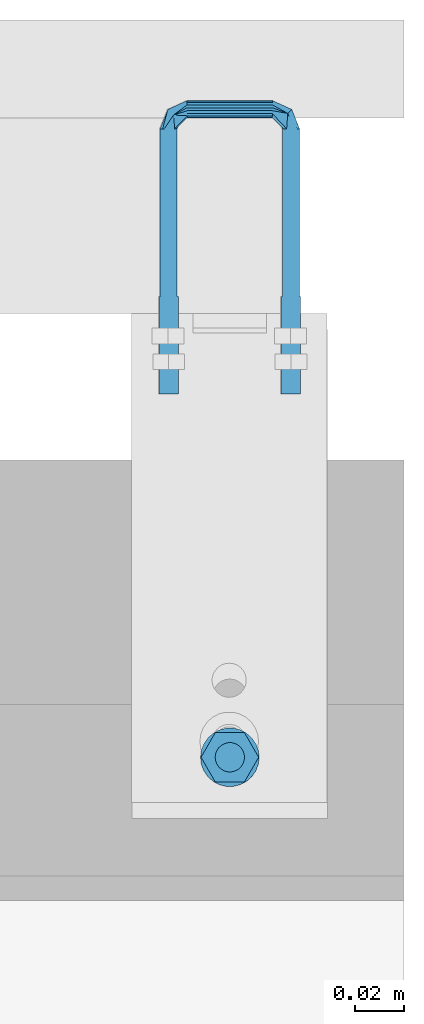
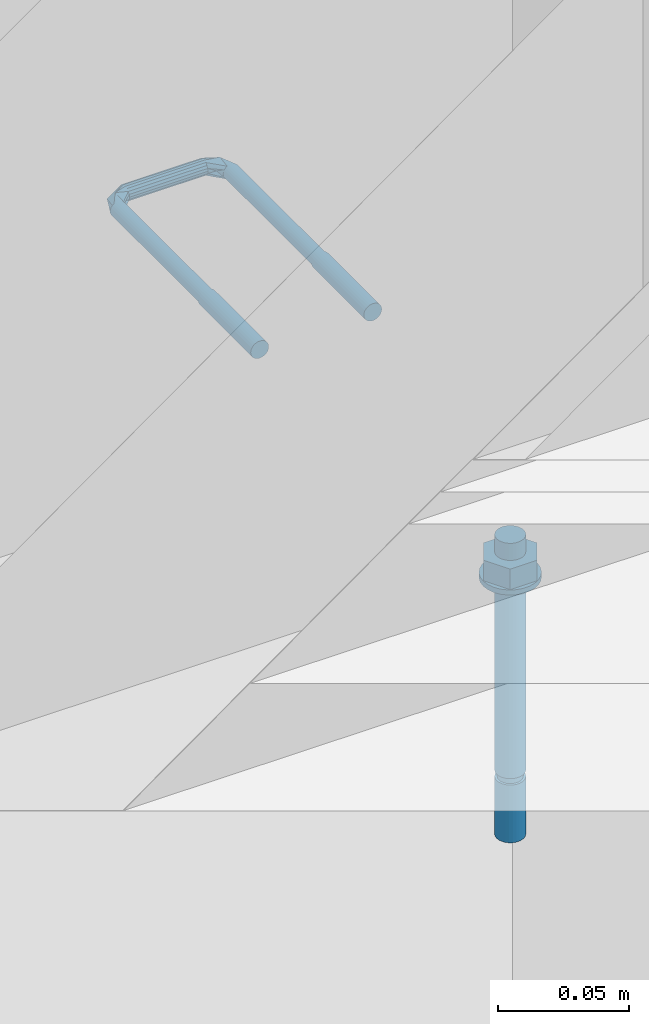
# One storey, part 7 of 13: 2 assemblies.
"""IFC2X3 building model written with IfcOpenShell, lengths in metres."""

from ifc_helpers import new_model, entity, si_unit, converted_unit, derived_unit, direction, frame, frame_2d, origin, place, context, subcontext, project, spatial, polyline, circle_curve, parameter, trimmed, segment, composite_curve, circle, hollow_circle, outline, extrude, faceted_brep, source, transform, mapped, material, type_object, type_shapes, element, save


model = new_model("IFC2X3")

# Units and contexts
model_context = context("Model", 3, precision=1e-05, world=origin(), true_north=direction((6.123031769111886e-17, 1.0)))
body_context = subcontext(model_context, "Body", "Model", "MODEL_VIEW")
ifc_project = project(units=[si_unit("LENGTHUNIT", "METRE"), si_unit("AREAUNIT", "SQUARE_METRE"), converted_unit("PLANEANGLEUNIT", "DEGREE", entity("IfcPlaneAngleMeasure", 0.017453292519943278), si_unit("PLANEANGLEUNIT", "RADIAN"), dimensions=[0, 0, 0, 0, 0, 0, 0]), si_unit("VOLUMEUNIT", "CUBIC_METRE"), derived_unit("THERMALTRANSMITTANCEUNIT", [(si_unit("MASSUNIT", "GRAM", prefix="KILO"), 1), (si_unit("THERMODYNAMICTEMPERATUREUNIT", "KELVIN"), -1), (si_unit("TIMEUNIT", "SECOND"), -3)]), derived_unit("USERDEFINED", [(si_unit("MASSUNIT", "GRAM", prefix="KILO"), 1), (si_unit("THERMODYNAMICTEMPERATUREUNIT", "KELVIN"), -1), (si_unit("TIMEUNIT", "SECOND"), -2)]), derived_unit("THERMALRESISTANCEUNIT", [(si_unit("MASSUNIT", "GRAM", prefix="KILO"), -1), (si_unit("TIMEUNIT", "SECOND"), 3), (si_unit("THERMODYNAMICTEMPERATUREUNIT", "KELVIN"), 1)]), derived_unit("MASSDENSITYUNIT", [(si_unit("MASSUNIT", "GRAM", prefix="KILO"), 1), (si_unit("LENGTHUNIT", "METRE"), -3)]), derived_unit("VAPORPERMEABILITYUNIT", [(si_unit("LENGTHUNIT", "METRE"), -1), (si_unit("TIMEUNIT", "SECOND"), 1)]), derived_unit("USERDEFINED", [(si_unit("MASSUNIT", "GRAM", prefix="KILO"), 1), (si_unit("TIMEUNIT", "SECOND"), -3), (si_unit("LENGTHUNIT", "METRE"), 3), (si_unit("ELECTRICCURRENTUNIT", "AMPERE"), -2)]), si_unit("PRESSUREUNIT", "PASCAL")], contexts=[model_context])

# Site, building, storey
site_placement = place(None, origin())
site = spatial("IfcSite", under=ifc_project, at=site_placement, Name="Default", CompositionType="ELEMENT")
building_placement = place(site_placement, origin())
building = spatial("IfcBuilding", under=site, at=building_placement, CompositionType="ELEMENT")
storey_placement = place(building_placement, origin())
storey = spatial("IfcBuildingStorey", under=building, at=storey_placement, Name="L0", CompositionType="ELEMENT", Elevation=0.0)

# Assemblies
ifc_material = material(Name="REC_Acero, S 275JR (Zincado)")
type_product_1 = type_object("IfcTypeProduct", Name="REC-AU12050M8EQ:AU12050M8EQ", material=ifc_material)
shared_shape_1 = source(origin(), body_context, "Body", "Brep", [
    faceted_brep([(0.023250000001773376, 0.0030310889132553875, 0.023500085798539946), (0.022999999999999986, 0.0034641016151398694, 0.023500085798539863), (0.022525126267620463, 0.0024748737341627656, 0.023500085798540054), (0.02396472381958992, 0.0038637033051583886, 0.023500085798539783), (0.02409413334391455, 0.0033807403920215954, 0.02350008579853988), (0.02500000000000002, 0.004000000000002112, 0.023500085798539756), (0.02500000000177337, 0.003500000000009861, 0.023500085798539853), (0.026035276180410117, 0.003863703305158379, 0.023500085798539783), (0.025905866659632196, 0.0033807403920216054, 0.02350008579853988), (0.027000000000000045, 0.0034641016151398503, 0.023500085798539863), (0.026750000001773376, 0.003031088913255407, 0.023500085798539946), (0.027474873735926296, 0.0024748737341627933, 0.023500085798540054), (0.027828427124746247, 0.0028284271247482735, 0.023500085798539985), (0.028031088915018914, 0.0017500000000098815, 0.023500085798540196), (0.02846410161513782, 0.0020000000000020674, 0.023500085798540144), (0.028380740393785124, 0.0009058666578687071, 0.023500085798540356), (0.02886370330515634, 0.0010352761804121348, 0.02350008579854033), (0.02850000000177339, 0.0, 0.023500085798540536), (0.029000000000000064, 0.0, 0.023500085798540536), (0.028380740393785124, -0.0009058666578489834, 0.023500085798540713), (0.028863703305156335, -0.0010352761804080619, 0.023500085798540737), (0.028031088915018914, -0.0017499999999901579, 0.023500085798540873), (0.028464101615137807, -0.001999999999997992, 0.023500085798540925), (0.027474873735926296, -0.00247487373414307, 0.02350008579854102), (0.027828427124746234, -0.0028284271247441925, 0.023500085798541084), (0.026750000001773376, -0.0030310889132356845, 0.023500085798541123), (0.027000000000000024, -0.003464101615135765, 0.02350008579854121), (0.025905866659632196, -0.0033807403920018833, 0.023500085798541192), (0.026035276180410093, -0.0038637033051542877, 0.02350008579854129), (0.025000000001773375, -0.00349999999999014, 0.023500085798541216), (0.024999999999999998, -0.003999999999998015, 0.023500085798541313), (0.024094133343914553, -0.0033807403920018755, 0.023500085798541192), (0.0239647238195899, -0.0038637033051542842, 0.02350008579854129), (0.02325000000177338, -0.003031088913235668, 0.023500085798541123), (0.022999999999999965, -0.0034641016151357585, 0.02350008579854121), (0.022171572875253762, -0.0028284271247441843, 0.023500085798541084), (0.022525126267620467, -0.0024748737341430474, 0.02350008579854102), (0.021535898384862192, -0.0019999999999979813, 0.023500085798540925), (0.021968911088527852, -0.0017499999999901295, 0.023500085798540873), (0.021136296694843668, -0.0010352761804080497, 0.023500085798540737), (0.02161925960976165, -0.000905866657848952, 0.023500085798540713), (0.02099999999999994, 0.0, 0.023500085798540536), (0.021500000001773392, 0.0, 0.023500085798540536), (0.02113629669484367, 0.0010352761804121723, 0.02350008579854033), (0.02161925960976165, 0.0009058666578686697, 0.023500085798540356), (0.021535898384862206, 0.0020000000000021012, 0.023500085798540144), (0.021968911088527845, 0.0017500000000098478, 0.023500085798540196), (0.022171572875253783, 0.0028284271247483, 0.023500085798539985), (-0.023000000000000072, -0.0034641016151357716, 0.023500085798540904), (-0.02217157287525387, -0.002828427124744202, 0.02350008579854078), (-0.02153589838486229, -0.0019999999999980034, 0.02350008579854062), (-0.021136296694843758, -0.0010352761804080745, 0.023500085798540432), (-0.021619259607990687, -0.000905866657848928, 0.023500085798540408), (-0.02196891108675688, -0.0017499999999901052, 0.023500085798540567), (-0.022525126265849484, -0.002474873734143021, 0.023500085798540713), (-0.023250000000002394, -0.0030310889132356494, 0.023500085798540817), (-0.024094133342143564, -0.0033807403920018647, 0.023500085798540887), (-0.025000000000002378, -0.00349999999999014, 0.02350008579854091), (-0.0259058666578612, -0.0033807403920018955, 0.023500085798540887), (-0.02675000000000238, -0.003031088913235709, 0.023500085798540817), (-0.027474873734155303, -0.0024748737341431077, 0.023500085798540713), (-0.02803108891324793, -0.0017499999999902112, 0.023500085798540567), (-0.02838074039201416, -0.0009058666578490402, 0.023500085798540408), (-0.028500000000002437, 0.0, 0.02350008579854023), (-0.028380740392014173, 0.0009058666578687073, 0.023500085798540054), (-0.028031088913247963, 0.0017500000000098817, 0.02350008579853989), (-0.02747487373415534, 0.002474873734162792, 0.02350008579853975), (-0.02675000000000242, 0.0030310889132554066, 0.02350008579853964), (-0.025905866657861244, 0.0033807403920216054, 0.023500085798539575), (-0.025000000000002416, 0.003500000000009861, 0.02350008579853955), (-0.024094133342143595, 0.003380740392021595, 0.023500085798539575), (-0.02325000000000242, 0.0030310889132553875, 0.02350008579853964), (-0.02252512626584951, 0.0024748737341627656, 0.02350008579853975), (-0.021968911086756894, 0.0017500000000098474, 0.02350008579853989), (-0.021619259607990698, 0.0009058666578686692, 0.023500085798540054), (-0.021000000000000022, 0.0, 0.02350008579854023), (-0.021136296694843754, 0.0010352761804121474, 0.023500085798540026), (-0.02153589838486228, 0.0020000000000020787, 0.023500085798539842), (-0.02217157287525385, 0.002828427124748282, 0.02350008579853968), (-0.02300000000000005, 0.0034641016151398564, 0.023500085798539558), (-0.023964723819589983, 0.003863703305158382, 0.023500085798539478), (-0.02500000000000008, 0.004000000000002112, 0.023500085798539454), (-0.02603527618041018, 0.003863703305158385, 0.023500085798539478), (-0.02700000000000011, 0.003464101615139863, 0.023500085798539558), (-0.027828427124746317, 0.0028284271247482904, 0.02350008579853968), (-0.02846410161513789, 0.0020000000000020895, 0.023500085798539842), (-0.028863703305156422, 0.0010352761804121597, 0.023500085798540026), (-0.02900000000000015, 0.0, 0.02350008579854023), (-0.028863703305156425, -0.001035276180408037, 0.023500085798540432), (-0.028464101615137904, -0.0019999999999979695, 0.02350008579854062), (-0.027828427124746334, -0.0028284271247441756, 0.02350008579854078), (-0.02700000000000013, -0.0034641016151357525, 0.023500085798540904), (-0.026035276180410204, -0.003863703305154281, 0.023500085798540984), (-0.025000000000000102, -0.003999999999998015, 0.023500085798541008), (-0.023964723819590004, -0.0038637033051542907, 0.023500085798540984), (0.0239647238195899, -0.003863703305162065, -0.016499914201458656), (0.022999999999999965, -0.0034641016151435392, -0.016499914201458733), (0.022171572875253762, -0.0028284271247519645, -0.016499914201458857), (0.021535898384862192, -0.0020000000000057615, -0.016499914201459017), (0.021136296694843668, -0.0010352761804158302, -0.016499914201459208), (0.02099999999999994, 0.0, -0.016499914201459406), (0.02113629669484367, 0.0010352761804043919, -0.016499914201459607), (0.021535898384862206, 0.0019999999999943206, -0.016499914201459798), (0.022171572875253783, 0.0028284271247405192, -0.016499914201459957), (0.022999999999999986, 0.0034641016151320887, -0.016499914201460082), (0.02396472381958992, 0.003863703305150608, -0.01649991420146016), (0.02500000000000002, 0.003999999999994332, -0.016499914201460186), (0.026035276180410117, 0.0038637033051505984, -0.01649991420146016), (0.027000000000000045, 0.0034641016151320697, -0.016499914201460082), (0.027828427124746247, 0.0028284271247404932, -0.016499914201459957), (0.02846410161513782, 0.001999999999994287, -0.016499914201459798), (0.02886370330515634, 0.0010352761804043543, -0.016499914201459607), (0.029000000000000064, 0.0, -0.016499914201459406), (0.028863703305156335, -0.0010352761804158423, -0.016499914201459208), (0.028464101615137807, -0.0020000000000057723, -0.016499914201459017), (0.027828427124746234, -0.002828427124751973, -0.016499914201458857), (0.027000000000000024, -0.0034641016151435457, -0.016499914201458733), (0.026035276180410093, -0.003863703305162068, -0.016499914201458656), (0.024999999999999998, -0.004000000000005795, -0.01649991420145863), (-0.023964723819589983, 0.003863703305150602, -0.016499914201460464), (-0.02300000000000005, 0.003464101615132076, -0.016499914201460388), (-0.02217157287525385, 0.0028284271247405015, -0.016499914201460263), (-0.02153589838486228, 0.0019999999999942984, -0.0164999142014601), (-0.021136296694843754, 0.001035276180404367, -0.016499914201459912), (-0.021000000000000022, 0.0, -0.01649991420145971), (-0.021136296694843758, -0.0010352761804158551, -0.01649991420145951), (-0.02153589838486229, -0.0020000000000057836, -0.016499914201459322), (-0.02217157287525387, -0.0028284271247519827, -0.016499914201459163), (-0.023000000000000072, -0.003464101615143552, -0.016499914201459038), (-0.023964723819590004, -0.003863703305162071, -0.01649991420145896), (-0.025000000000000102, -0.004000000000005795, -0.016499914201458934), (-0.026035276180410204, -0.0038637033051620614, -0.01649991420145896), (-0.02700000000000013, -0.0034641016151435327, -0.016499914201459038), (-0.027828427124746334, -0.0028284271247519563, -0.016499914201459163), (-0.028464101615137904, -0.00200000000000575, -0.016499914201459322), (-0.028863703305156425, -0.0010352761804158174, -0.01649991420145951), (-0.02900000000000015, 0.0, -0.01649991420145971), (-0.028863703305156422, 0.001035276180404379, -0.016499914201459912), (-0.02846410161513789, 0.0019999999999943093, -0.0164999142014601), (-0.027828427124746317, 0.00282842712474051, -0.016499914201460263), (-0.02700000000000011, 0.0034641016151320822, -0.016499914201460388), (-0.02603527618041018, 0.003863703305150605, -0.016499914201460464), (-0.02500000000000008, 0.003999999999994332, -0.01649991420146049), (-0.021500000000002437, 0.0, 0.0235000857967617), (-0.021500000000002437, 0.0, 0.09201281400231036), (-0.021619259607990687, -0.000905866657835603, 0.09201281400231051), (-0.021968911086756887, -0.0017499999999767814, 0.0920128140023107), (-0.022525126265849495, -0.0024748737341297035, 0.09201281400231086), (-0.023250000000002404, -0.003031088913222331, 0.09201281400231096), (-0.024094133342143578, -0.0033807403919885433, 0.09201281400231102), (-0.0250000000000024, -0.0034999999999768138, 0.09201281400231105), (-0.0267500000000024, -0.00303108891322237, 0.09201281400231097), (-0.027474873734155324, -0.002474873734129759, 0.09201281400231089), (-0.02590586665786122, -0.0033807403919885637, 0.09201281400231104), (-0.028380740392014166, -0.0009058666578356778, 0.09201281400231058), (-0.028500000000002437, 0.0, 0.09201281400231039), (-0.028031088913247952, -0.0017499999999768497, 0.09201281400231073), (-0.02838074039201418, 0.0009058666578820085, 0.0920128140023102), (-0.028031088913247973, 0.0017500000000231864, 0.09201281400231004), (-0.026750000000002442, 0.003031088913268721, 0.09201281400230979), (-0.02590586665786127, 0.0033807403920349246, 0.09201281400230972), (-0.02747487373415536, 0.0024748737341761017, 0.09201281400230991), (-0.025000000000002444, 0.0035000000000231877, 0.0920128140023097), (-0.023250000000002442, 0.0030310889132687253, 0.09201281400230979), (-0.022525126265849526, 0.0024748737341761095, 0.09201281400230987), (-0.024094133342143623, 0.003380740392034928, 0.09201281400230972), (-0.0216192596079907, 0.0009058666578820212, 0.09201281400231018), (-0.021968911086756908, 0.001750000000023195, 0.09201281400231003), (-0.023021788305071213, -0.0034912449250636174, 0.09764821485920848), (-0.017367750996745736, -0.002249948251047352, 0.09731909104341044), (-0.027229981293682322, 0.0, 0.0951839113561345), (-0.025320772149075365, 0.0, 0.09995099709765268), (-0.020299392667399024, 0.0, 0.09507288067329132), (-0.01734606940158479, -0.0011969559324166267, 0.09671111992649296), (-0.017338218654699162, 0.0, 0.09650008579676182), (-0.017433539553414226, -0.00344640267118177, 0.09938991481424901), (-0.017467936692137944, -0.0034468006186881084, 0.10060800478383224), (-0.017398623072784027, -0.0030301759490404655, 0.09824850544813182), (-0.01749800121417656, -0.003031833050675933, 0.10174879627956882), (-0.01753592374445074, -0.0011969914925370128, 0.10328903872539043), (-0.01752129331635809, -0.0022495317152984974, 0.10268143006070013), (-0.017540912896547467, 0.0, 0.10350008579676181), (-0.02302182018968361, 0.0034912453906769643, 0.09764817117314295), (-0.017467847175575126, 0.003447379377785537, 0.10060471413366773), (-0.017433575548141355, 0.003446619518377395, 0.09939114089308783), (-0.017367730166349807, 0.002249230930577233, 0.0973184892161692), (-0.017497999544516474, 0.0030318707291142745, 0.10174873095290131), (-0.01752126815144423, 0.002250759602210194, 0.1026803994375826), (-0.01739859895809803, 0.00302973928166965, 0.09824775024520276), (-0.0175359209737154, 0.0011973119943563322, 0.1032889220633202), (-0.01734606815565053, 0.0011968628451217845, 0.0967110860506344), (0.017338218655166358, 0.0, 0.09650008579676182), (0.01734606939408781, -0.0011969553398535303, 0.09671111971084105), (0.017398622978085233, -0.0030301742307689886, 0.09824850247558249), (0.01743353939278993, -0.0034464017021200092, 0.09938990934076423), (0.017367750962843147, -0.0022499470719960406, 0.09731909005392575), (0.017467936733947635, -0.0034468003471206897, 0.10060800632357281), (0.017498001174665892, -0.003031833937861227, 0.10174879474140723), (0.017521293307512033, -0.002249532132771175, 0.10268142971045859), (0.017535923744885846, -0.001196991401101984, 0.10328903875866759), (0.017540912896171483, 0.0, 0.10350008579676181), (0.017535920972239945, 0.0011973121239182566, 0.10328892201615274), (0.01752126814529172, 0.0022507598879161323, 0.10268039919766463), (0.017497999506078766, 0.0030318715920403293, 0.10174872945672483), (0.017467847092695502, 0.0034473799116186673, 0.10060471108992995), (0.017433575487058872, 0.0034466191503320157, 0.09939113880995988), (0.017398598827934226, 0.003029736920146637, 0.09824774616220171), (0.01734606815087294, 0.0011968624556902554, 0.09671108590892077), (0.01736773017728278, 0.0022492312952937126, 0.09731848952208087), (0.022525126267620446, -0.002474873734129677, 0.0920128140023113), (0.02369781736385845, -0.0032894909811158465, 0.09831334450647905), (0.02029939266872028, 0.0, 0.09507288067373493), (0.021968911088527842, -0.001749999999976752, 0.09201281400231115), (0.023250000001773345, -0.003031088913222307, 0.0920128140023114), (0.025320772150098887, 0.0, 0.09995099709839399), (0.02838074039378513, -0.0009058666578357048, 0.09201281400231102), (0.028500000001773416, 0.0, 0.09201281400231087), (0.02722998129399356, 0.0, 0.0951839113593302), (0.02675000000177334, -0.003031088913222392, 0.09201281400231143), (0.025905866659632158, -0.003380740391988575, 0.0920128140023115), (0.02161925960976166, -0.0009058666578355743, 0.09201281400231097), (0.021500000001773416, 0.0, 0.0920128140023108), (0.02409413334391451, -0.00338074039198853, 0.09201281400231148), (0.02747487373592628, -0.0024748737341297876, 0.09201281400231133), (0.02500000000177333, -0.0034999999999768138, 0.09201281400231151), (0.028031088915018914, -0.001749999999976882, 0.09201281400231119), (0.023697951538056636, 0.0032894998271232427, 0.09831316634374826), (0.021968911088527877, 0.0017500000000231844, 0.09201281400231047), (0.02252512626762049, 0.0024748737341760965, 0.09201281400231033), (0.02590586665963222, 0.003380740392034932, 0.09201281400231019), (0.025000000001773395, 0.0035000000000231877, 0.09201281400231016), (0.02803108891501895, 0.0017500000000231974, 0.0920128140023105), (0.02838074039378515, 0.0009058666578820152, 0.09201281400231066), (0.024094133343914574, 0.0033807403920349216, 0.09201281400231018), (0.026750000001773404, 0.003031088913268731, 0.09201281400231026), (0.027474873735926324, 0.002474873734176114, 0.09201281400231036), (0.021619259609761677, 0.0009058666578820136, 0.09201281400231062), (0.023250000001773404, 0.0030310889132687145, 0.09201281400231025)], [[[0, 1, 2]], [[1, 0, 3]], [[4, 3, 0]], [[5, 3, 4]], [[6, 5, 4]], [[6, 7, 5]], [[7, 6, 8]], [[7, 8, 9]], [[10, 9, 8]], [[11, 9, 10]], [[12, 9, 11]], [[13, 12, 11]], [[13, 14, 12]], [[13, 15, 14]], [[15, 16, 14]], [[16, 15, 17]], [[16, 17, 18]], [[17, 19, 18]], [[19, 20, 18]], [[19, 21, 20]], [[20, 21, 22]], [[21, 23, 22]], [[23, 24, 22]], [[25, 24, 23]], [[24, 25, 26]], [[26, 25, 27]], [[27, 28, 26]], [[27, 29, 28]], [[28, 29, 30]], [[30, 29, 31]], [[31, 32, 30]], [[32, 31, 33]], [[33, 34, 32]], [[35, 34, 33]], [[35, 33, 36]], [[37, 35, 36]], [[36, 38, 37]], [[38, 39, 37]], [[38, 40, 39]], [[40, 41, 39]], [[40, 42, 41]], [[42, 43, 41]], [[44, 43, 42]], [[44, 45, 43]], [[44, 46, 45]], [[2, 47, 46]], [[46, 47, 45]], [[2, 1, 47]], [[48, 49, 50, 51, 52, 53, 54, 55, 56, 57, 58, 59, 60, 61, 62, 63, 64, 65, 66, 67, 68, 69, 70, 71, 72, 73, 74, 75, 76, 77, 78, 79, 80, 81, 82, 83, 84, 85, 86, 87, 88, 89, 90, 91, 92, 93, 94]], [[95, 96, 97, 98, 99, 100, 101, 102, 103, 104, 105, 106, 107, 108, 109, 110, 111, 112, 113, 114, 115, 116, 117, 118]], [[119, 120, 121, 122, 123, 124, 125, 126, 127, 128, 129, 130, 131, 132, 133, 134, 135, 136, 137, 138, 139, 140, 141, 142]], [[99, 39, 41, 100]], [[98, 37, 39, 99]], [[34, 35, 97, 96]], [[98, 97, 35, 37]], [[32, 34, 96, 95]], [[95, 118, 30, 32]], [[117, 28, 30, 118]], [[116, 26, 28, 117]], [[22, 24, 115, 114]], [[116, 115, 24, 26]], [[20, 22, 114, 113]], [[18, 20, 113, 112]], [[111, 16, 18, 112]], [[110, 14, 16, 111]], [[9, 12, 109, 108]], [[110, 109, 12, 14]], [[7, 9, 108, 107]], [[5, 7, 107, 106]], [[105, 3, 5, 106]], [[104, 1, 3, 105]], [[45, 47, 103, 102]], [[104, 103, 47, 1]], [[43, 45, 102, 101]], [[41, 43, 101, 100]], [[143, 144, 145, 52]], [[146, 53, 52, 145]], [[54, 147, 148, 55]], [[146, 147, 54, 53]], [[55, 148, 149, 56]], [[56, 149, 150, 57]], [[151, 152, 60, 59]], [[153, 151, 59, 58]], [[154, 155, 63, 62]], [[156, 154, 62, 61]], [[152, 156, 61, 60]], [[58, 57, 150, 153]], [[157, 158, 65, 64]], [[155, 157, 64, 63]], [[159, 160, 68, 67]], [[161, 159, 67, 66]], [[158, 161, 66, 65]], [[68, 160, 162, 69]], [[163, 164, 72, 71]], [[165, 163, 71, 70]], [[166, 144, 143, 74]], [[167, 166, 74, 73]], [[164, 167, 73, 72]], [[70, 69, 162, 165]], [[149, 148, 168]], [[168, 148, 147]], [[169, 147, 146]], [[169, 168, 147]], [[150, 168, 153]], [[156, 152, 170]], [[170, 152, 171]], [[151, 153, 168]], [[151, 171, 152]], [[155, 154, 170]], [[146, 145, 172]], [[172, 173, 146]], [[173, 172, 174]], [[156, 170, 154]], [[175, 176, 168]], [[168, 169, 177]], [[169, 146, 173]], [[176, 178, 168]], [[175, 168, 177]], [[171, 151, 168]], [[149, 168, 150]], [[168, 178, 171]], [[179, 171, 180]], [[181, 171, 179]], [[180, 171, 178]], [[172, 145, 144]], [[171, 161, 170]], [[157, 170, 158]], [[157, 155, 170]], [[159, 161, 171]], [[159, 171, 182]], [[183, 184, 182]], [[170, 161, 158]], [[160, 182, 162]], [[162, 182, 165]], [[164, 163, 182]], [[167, 172, 166]], [[164, 185, 167]], [[165, 182, 163]], [[160, 159, 182]], [[186, 183, 182]], [[186, 171, 187]], [[188, 182, 184]], [[171, 189, 187]], [[189, 171, 181]], [[144, 166, 172]], [[174, 172, 190]], [[164, 182, 185]], [[190, 172, 167]], [[167, 185, 190]], [[188, 185, 182]], [[186, 182, 171]], [[191, 192, 174]], [[193, 194, 177]], [[195, 193, 169]], [[192, 195, 173]], [[173, 174, 192]], [[177, 169, 193]], [[175, 177, 194]], [[173, 195, 169]], [[194, 196, 175]], [[176, 196, 197]], [[180, 198, 199]], [[197, 198, 178]], [[199, 200, 179]], [[176, 197, 178]], [[199, 179, 180]], [[180, 178, 198]], [[179, 200, 181]], [[196, 176, 175]], [[181, 200, 201]], [[186, 202, 203]], [[201, 202, 189]], [[183, 203, 204]], [[181, 201, 189]], [[187, 189, 202]], [[202, 186, 187]], [[203, 183, 186]], [[204, 184, 183]], [[205, 206, 188]], [[207, 191, 190]], [[208, 207, 185]], [[206, 208, 185]], [[188, 184, 205]], [[190, 185, 207]], [[174, 190, 191]], [[188, 206, 185]], [[205, 184, 204]], [[209, 193, 195]], [[194, 193, 210]], [[192, 191, 211]], [[195, 192, 212]], [[210, 193, 213]], [[214, 200, 199]], [[214, 199, 198]], [[196, 210, 197]], [[196, 194, 210]], [[210, 198, 197]], [[211, 212, 192]], [[215, 216, 217]], [[218, 210, 219]], [[220, 212, 211]], [[221, 220, 211]], [[210, 214, 198]], [[222, 210, 213]], [[209, 213, 193]], [[212, 209, 195]], [[223, 210, 218]], [[219, 210, 224]], [[225, 217, 223]], [[214, 223, 217]], [[215, 217, 225]], [[223, 214, 210]], [[224, 210, 222]], [[201, 214, 202]], [[214, 201, 200]], [[226, 203, 202]], [[226, 202, 214]], [[204, 226, 205]], [[205, 226, 206]], [[227, 207, 208]], [[207, 211, 191]], [[227, 211, 207]], [[208, 206, 228]], [[229, 230, 226]], [[231, 217, 232]], [[230, 233, 226]], [[234, 226, 235]], [[203, 226, 204]], [[231, 235, 217]], [[232, 217, 216]], [[226, 214, 235]], [[214, 217, 235]], [[227, 236, 211]], [[221, 211, 236]], [[237, 206, 226]], [[228, 206, 237]], [[227, 208, 228]], [[233, 237, 226]], [[226, 234, 229]], [[221, 42, 40, 220]], [[38, 212, 220, 40]], [[209, 36, 33, 213]], [[38, 36, 209, 212]], [[213, 33, 31, 222]], [[222, 31, 29, 224]], [[25, 23, 223, 218]], [[27, 25, 218, 219]], [[19, 17, 216, 215]], [[21, 19, 215, 225]], [[23, 21, 225, 223]], [[219, 224, 29, 27]], [[15, 13, 231, 232]], [[17, 15, 232, 216]], [[10, 8, 229, 234]], [[11, 10, 234, 235]], [[13, 11, 235, 231]], [[229, 8, 6, 230]], [[0, 2, 228, 237]], [[4, 0, 237, 233]], [[44, 42, 221, 236]], [[46, 44, 236, 227]], [[2, 46, 227, 228]], [[233, 230, 6, 4]], [[143, 51, 75]], [[52, 51, 143]], [[74, 143, 75]], [[135, 88, 87, 136]], [[134, 89, 88, 135]], [[91, 90, 133, 132]], [[134, 133, 90, 89]], [[92, 91, 132, 131]], [[93, 92, 131, 130]], [[129, 94, 93, 130]], [[128, 48, 94, 129]], [[50, 49, 127, 126]], [[128, 127, 49, 48]], [[51, 50, 126, 125]], [[75, 51, 125, 124]], [[123, 76, 75, 124]], [[122, 77, 76, 123]], [[79, 78, 121, 120]], [[122, 121, 78, 77]], [[80, 79, 120, 119]], [[119, 142, 81, 80]], [[141, 82, 81, 142]], [[140, 83, 82, 141]], [[85, 84, 139, 138]], [[140, 139, 84, 83]], [[86, 85, 138, 137]], [[87, 86, 137, 136]]]),
])
type_shapes(type_product_1, [shared_shape_1])
assembly_1_placement = place(storey_placement, frame((7.816482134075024, 15.97803029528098, 0.035084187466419), z_axis=(0.0, 1.0, 0.0), x_axis=(1.0, 0.0, 0.0)))
element("IfcElementAssembly", 1, at=assembly_1_placement, inside=storey, type_object=type_product_1, material=ifc_material, Name="REC-AU12050M8EQ:AU12050M8EQ", ObjectType="REC-AU12050M8EQ:AU12050M8EQ", AssemblyPlace="NOTDEFINED", PredefinedType="NOTDEFINED", context=body_context, shape_type="MappedRepresentation", body=[
    mapped(shared_shape_1, transform((0.0, 0.0, 0.0), scale=1.0)),
])
type_product_2 = type_object("IfcTypeProduct", Name="REC-AEM12-140:AEM12-140", material=ifc_material)
shared_shape_2 = source(origin(), body_context, "Body", "SweptSolid", [
    extrude(outline(polyline([(-0.005890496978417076, -0.010202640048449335), (0.005890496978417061, -0.010202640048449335), (0.01178099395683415, 0.0), (0.005890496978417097, 0.010202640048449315), (-0.0058904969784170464, 0.010202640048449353), (-0.011780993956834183, 0.0), (-0.005890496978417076, -0.010202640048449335)]), holes=[composite_curve([segment(trimmed(circle_curve(frame_2d((6.043164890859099e-09, 0.0), x_axis=(1.0, 0.0)), 0.005999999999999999), [parameter(3.053332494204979e-13)], [parameter(180.0)], True, "PARAMETER"), False, "CONTINUOUS"), segment(trimmed(circle_curve(frame_2d((6.043164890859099e-09, 0.0), x_axis=(1.0, 0.0)), 0.005999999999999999), [parameter(179.99999999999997)], [parameter(0.0)], True, "PARAMETER"), False, "CONTINUOUS")], self_intersect=False)]), frame((-6.043164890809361e-09, 0.0, 0.002399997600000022)), (0.0, 0.0, 1.0), 0.009600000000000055),
    extrude(hollow_circle(Radius=0.011999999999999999, WallThickness=0.004999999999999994, at=frame_2d((1.062573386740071e-19, -1.9386534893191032e-17), x_axis=(1.0, 0.0))), origin(), (0.0, 0.0, 1.0), 0.002399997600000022),
    extrude(circle(Radius=0.006, at=frame_2d((1.3218592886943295e-19, -9.69326744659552e-18), x_axis=(1.0, 0.0))), frame((0.0, 0.0, -0.09)), (0.0, 0.0, 1.0), 0.11),
    extrude(circle(Radius=0.006, at=frame_2d((1.3218592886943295e-19, -9.69326744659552e-18), x_axis=(1.0, 0.0))), frame((0.0, 0.0, -0.12)), (0.0, 0.0, 1.0), 0.026999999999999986),
    extrude(circle(Radius=0.005, at=frame_2d((1.3218592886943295e-19, -8.077722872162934e-18), x_axis=(1.0, 0.0))), frame((0.0, 0.0, -0.09300000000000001)), (0.0, 0.0, 1.0), 0.0030000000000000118),
])
type_shapes(type_product_2, [shared_shape_2])
assembly_2_placement = place(storey_placement, frame((7.816507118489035, 15.813030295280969, 0.009999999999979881), z_axis=(0.0, 0.0, 1.0), x_axis=(-1.0, 0.0, 0.0)))
element("IfcElementAssembly", 2, at=assembly_2_placement, inside=storey, type_object=type_product_2, material=ifc_material, Name="REC-AEM12-140:AEM12-140", ObjectType="REC-AEM12-140:AEM12-140", AssemblyPlace="NOTDEFINED", PredefinedType="NOTDEFINED", context=body_context, shape_type="MappedRepresentation", body=[
    mapped(shared_shape_2, transform((0.0, 0.0, 0.0), scale=1.0)),
])

save(model, "model.ifc")
